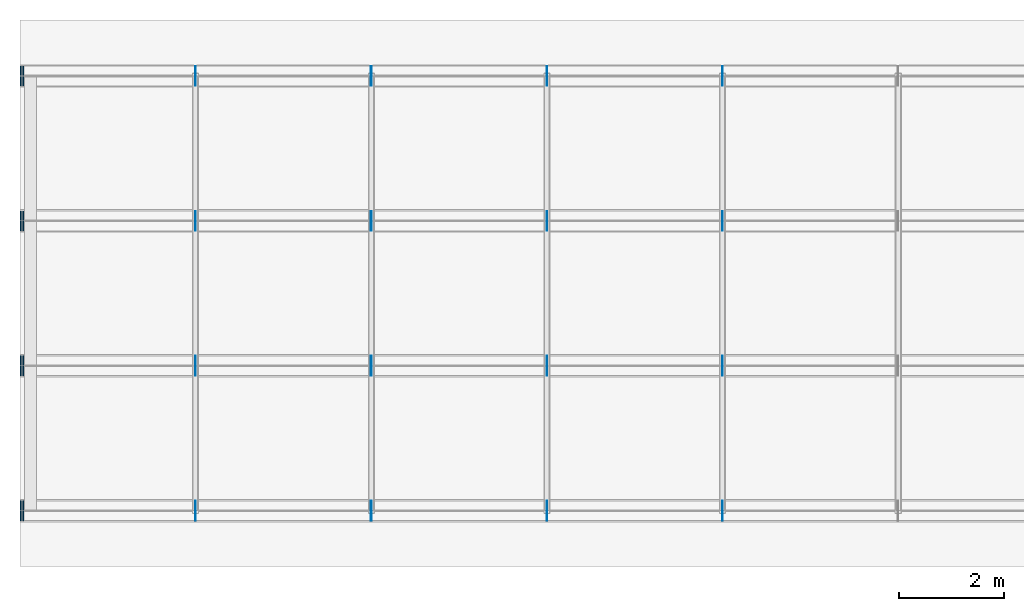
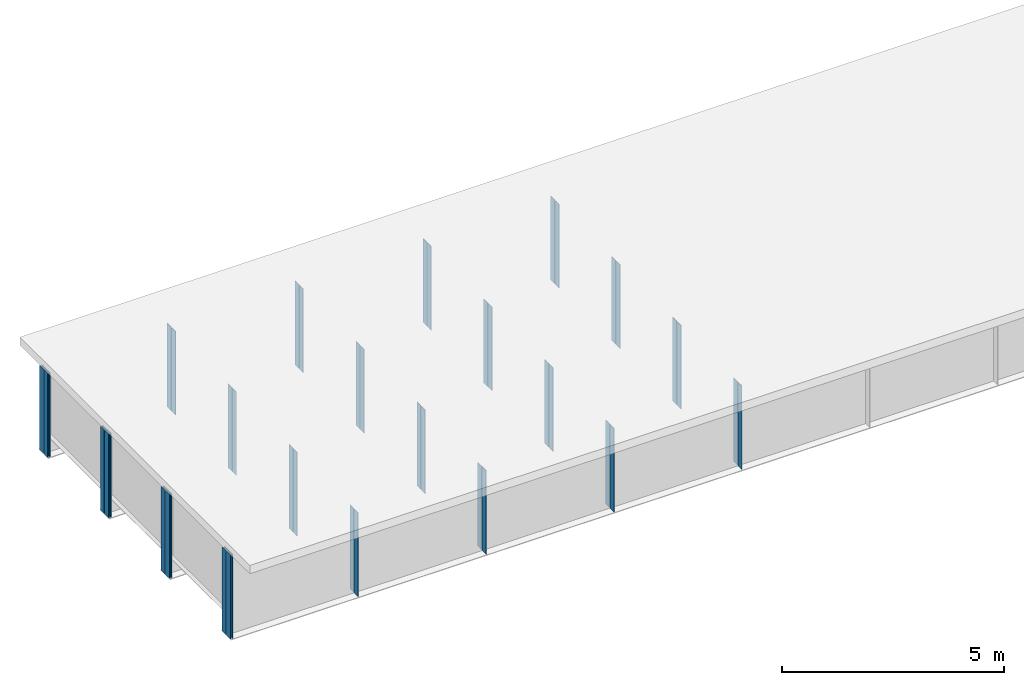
# One storey, part 3 of 13: 48 plates.
"""IFC4 building model written with IfcOpenShell, lengths in metres."""

from ifc_helpers import new_model, si_unit, frame, origin, origin_with_axes, origin_2d_with_axis, place, context, subcontext, project, spatial, rectangle, extrude, element, save


model = new_model("IFC4")

# Units and contexts
model_context = context("Model", 3, precision=1e-05, world=origin())
body_context = subcontext(model_context, "Body", "Model", "MODEL_VIEW")
ifc_project = project(units=[si_unit("LENGTHUNIT", "METRE"), si_unit("AREAUNIT", "SQUARE_METRE"), si_unit("VOLUMEUNIT", "CUBIC_METRE"), si_unit("PLANEANGLEUNIT", "RADIAN")], contexts=[model_context])

# Site, building, storey
site_placement = place(None, origin_with_axes())
site = spatial("IfcSite", under=ifc_project, at=site_placement, Name="Default Site")
building_placement = place(site_placement, origin_with_axes())
building = spatial("IfcBuilding", under=site, at=building_placement, Name="Bridge Structure")
storey_placement = place(building_placement, origin_with_axes())
storey = spatial("IfcBuildingStorey", under=building, at=storey_placement, Name="Superstructure")

# Plates
for number, where, z_axis, x_axis, name in (
    (1, (3.333, -4.02625, -1.155), (0.0, 0.0, 1.0), (1.0, 0.0, 0.0), "Intermediate Stiffener 1"),
    (2, (3.333, -4.22375, -1.155), (0.0, 0.0, 1.0), (1.0, 0.0, 0.0), "Intermediate Stiffener 1"),
    (3, (6.666, -4.02625, -1.155), (0.0, 0.0, 1.0), (1.0, 0.0, 0.0), "Intermediate Stiffener 1"),
    (4, (6.666, -4.22375, -1.155), (0.0, 0.0, 1.0), (1.0, 0.0, 0.0), "Intermediate Stiffener 1"),
    (5, (9.999, -4.02625, -1.155), (0.0, 0.0, 1.0), (1.0, 0.0, 0.0), "Intermediate Stiffener 1"),
    (6, (9.999, -4.22375, -1.155), (0.0, 0.0, 1.0), (1.0, 0.0, 0.0), "Intermediate Stiffener 1"),
    (7, (13.332, -4.02625, -1.155), (0.0, 0.0, 1.0), (1.0, 0.0, 0.0), "Intermediate Stiffener 1"),
    (8, (13.332, -4.22375, -1.155), (0.0, 0.0, 1.0), (1.0, 0.0, 0.0), "Intermediate Stiffener 1"),
):
    element("IfcPlate", number, at=place(storey_placement, frame(where, z_axis=z_axis, x_axis=x_axis)), inside=storey, Name=name, context=body_context, shape_type="SweptSolid", body=[
        extrude(rectangle(XDim=0.012, YDim=0.1775, at=origin_2d_with_axis()), origin_with_axes(), (0.0, 0.0, 1.0), 2.31),
    ])
for number, where, z_axis, x_axis, name in (
    (9, (0.01, -4.02625, -1.155), (0.0, 0.0, 1.0), (1.0, 0.0, 0.0), "End Stiffener 1"),
    (10, (0.01, -4.22375, -1.155), (0.0, 0.0, 1.0), (1.0, 0.0, 0.0), "End Stiffener 1"),
    (11, (0.06, -4.02625, -1.155), (0.0, 0.0, 1.0), (1.0, 0.0, 0.0), "End Stiffener 1"),
    (12, (0.06, -4.22375, -1.155), (0.0, 0.0, 1.0), (1.0, 0.0, 0.0), "End Stiffener 1"),
):
    element("IfcPlate", number, at=place(storey_placement, frame(where, z_axis=z_axis, x_axis=x_axis)), inside=storey, Name=name, context=body_context, shape_type="SweptSolid", body=[
        extrude(rectangle(XDim=0.02, YDim=0.1775, at=origin_2d_with_axis()), origin_with_axes(), (0.0, 0.0, 1.0), 2.31),
    ])
for number, where, z_axis, x_axis, name in (
    (13, (3.333, -1.27625, -1.155), (0.0, 0.0, 1.0), (1.0, 0.0, 0.0), "Intermediate Stiffener 2"),
    (14, (3.333, -1.4737500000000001, -1.155), (0.0, 0.0, 1.0), (1.0, 0.0, 0.0), "Intermediate Stiffener 2"),
    (15, (6.666, -1.27625, -1.155), (0.0, 0.0, 1.0), (1.0, 0.0, 0.0), "Intermediate Stiffener 2"),
    (16, (6.666, -1.4737500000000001, -1.155), (0.0, 0.0, 1.0), (1.0, 0.0, 0.0), "Intermediate Stiffener 2"),
    (17, (9.999, -1.27625, -1.155), (0.0, 0.0, 1.0), (1.0, 0.0, 0.0), "Intermediate Stiffener 2"),
    (18, (9.999, -1.4737500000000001, -1.155), (0.0, 0.0, 1.0), (1.0, 0.0, 0.0), "Intermediate Stiffener 2"),
    (19, (13.332, -1.27625, -1.155), (0.0, 0.0, 1.0), (1.0, 0.0, 0.0), "Intermediate Stiffener 2"),
    (20, (13.332, -1.4737500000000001, -1.155), (0.0, 0.0, 1.0), (1.0, 0.0, 0.0), "Intermediate Stiffener 2"),
):
    element("IfcPlate", number, at=place(storey_placement, frame(where, z_axis=z_axis, x_axis=x_axis)), inside=storey, Name=name, context=body_context, shape_type="SweptSolid", body=[
        extrude(rectangle(XDim=0.012, YDim=0.1775, at=origin_2d_with_axis()), origin_with_axes(), (0.0, 0.0, 1.0), 2.31),
    ])
for number, where, z_axis, x_axis, name in (
    (21, (0.01, -1.27625, -1.155), (0.0, 0.0, 1.0), (1.0, 0.0, 0.0), "End Stiffener 2"),
    (22, (0.01, -1.4737500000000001, -1.155), (0.0, 0.0, 1.0), (1.0, 0.0, 0.0), "End Stiffener 2"),
    (23, (0.06, -1.27625, -1.155), (0.0, 0.0, 1.0), (1.0, 0.0, 0.0), "End Stiffener 2"),
    (24, (0.06, -1.4737500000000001, -1.155), (0.0, 0.0, 1.0), (1.0, 0.0, 0.0), "End Stiffener 2"),
):
    element("IfcPlate", number, at=place(storey_placement, frame(where, z_axis=z_axis, x_axis=x_axis)), inside=storey, Name=name, context=body_context, shape_type="SweptSolid", body=[
        extrude(rectangle(XDim=0.02, YDim=0.1775, at=origin_2d_with_axis()), origin_with_axes(), (0.0, 0.0, 1.0), 2.31),
    ])
for number, where, z_axis, x_axis, name in (
    (25, (3.333, 1.4737500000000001, -1.155), (0.0, 0.0, 1.0), (1.0, 0.0, 0.0), "Intermediate Stiffener 3"),
    (26, (3.333, 1.27625, -1.155), (0.0, 0.0, 1.0), (1.0, 0.0, 0.0), "Intermediate Stiffener 3"),
    (27, (6.666, 1.4737500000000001, -1.155), (0.0, 0.0, 1.0), (1.0, 0.0, 0.0), "Intermediate Stiffener 3"),
    (28, (6.666, 1.27625, -1.155), (0.0, 0.0, 1.0), (1.0, 0.0, 0.0), "Intermediate Stiffener 3"),
    (29, (9.999, 1.4737500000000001, -1.155), (0.0, 0.0, 1.0), (1.0, 0.0, 0.0), "Intermediate Stiffener 3"),
    (30, (9.999, 1.27625, -1.155), (0.0, 0.0, 1.0), (1.0, 0.0, 0.0), "Intermediate Stiffener 3"),
    (31, (13.332, 1.4737500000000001, -1.155), (0.0, 0.0, 1.0), (1.0, 0.0, 0.0), "Intermediate Stiffener 3"),
    (32, (13.332, 1.27625, -1.155), (0.0, 0.0, 1.0), (1.0, 0.0, 0.0), "Intermediate Stiffener 3"),
):
    element("IfcPlate", number, at=place(storey_placement, frame(where, z_axis=z_axis, x_axis=x_axis)), inside=storey, Name=name, context=body_context, shape_type="SweptSolid", body=[
        extrude(rectangle(XDim=0.012, YDim=0.1775, at=origin_2d_with_axis()), origin_with_axes(), (0.0, 0.0, 1.0), 2.31),
    ])
for number, where, z_axis, x_axis, name in (
    (33, (0.01, 1.4737500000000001, -1.155), (0.0, 0.0, 1.0), (1.0, 0.0, 0.0), "End Stiffener 3"),
    (34, (0.01, 1.27625, -1.155), (0.0, 0.0, 1.0), (1.0, 0.0, 0.0), "End Stiffener 3"),
    (35, (0.06, 1.4737500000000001, -1.155), (0.0, 0.0, 1.0), (1.0, 0.0, 0.0), "End Stiffener 3"),
    (36, (0.06, 1.27625, -1.155), (0.0, 0.0, 1.0), (1.0, 0.0, 0.0), "End Stiffener 3"),
):
    element("IfcPlate", number, at=place(storey_placement, frame(where, z_axis=z_axis, x_axis=x_axis)), inside=storey, Name=name, context=body_context, shape_type="SweptSolid", body=[
        extrude(rectangle(XDim=0.02, YDim=0.1775, at=origin_2d_with_axis()), origin_with_axes(), (0.0, 0.0, 1.0), 2.31),
    ])
for number, where, z_axis, x_axis, name in (
    (37, (3.333, 4.22375, -1.155), (0.0, 0.0, 1.0), (1.0, 0.0, 0.0), "Intermediate Stiffener 4"),
    (38, (3.333, 4.02625, -1.155), (0.0, 0.0, 1.0), (1.0, 0.0, 0.0), "Intermediate Stiffener 4"),
    (39, (6.666, 4.22375, -1.155), (0.0, 0.0, 1.0), (1.0, 0.0, 0.0), "Intermediate Stiffener 4"),
    (40, (6.666, 4.02625, -1.155), (0.0, 0.0, 1.0), (1.0, 0.0, 0.0), "Intermediate Stiffener 4"),
    (41, (9.999, 4.22375, -1.155), (0.0, 0.0, 1.0), (1.0, 0.0, 0.0), "Intermediate Stiffener 4"),
    (42, (9.999, 4.02625, -1.155), (0.0, 0.0, 1.0), (1.0, 0.0, 0.0), "Intermediate Stiffener 4"),
    (43, (13.332, 4.22375, -1.155), (0.0, 0.0, 1.0), (1.0, 0.0, 0.0), "Intermediate Stiffener 4"),
    (44, (13.332, 4.02625, -1.155), (0.0, 0.0, 1.0), (1.0, 0.0, 0.0), "Intermediate Stiffener 4"),
):
    element("IfcPlate", number, at=place(storey_placement, frame(where, z_axis=z_axis, x_axis=x_axis)), inside=storey, Name=name, context=body_context, shape_type="SweptSolid", body=[
        extrude(rectangle(XDim=0.012, YDim=0.1775, at=origin_2d_with_axis()), origin_with_axes(), (0.0, 0.0, 1.0), 2.31),
    ])
for number, where, z_axis, x_axis, name in (
    (45, (0.01, 4.22375, -1.155), (0.0, 0.0, 1.0), (1.0, 0.0, 0.0), "End Stiffener 4"),
    (46, (0.01, 4.02625, -1.155), (0.0, 0.0, 1.0), (1.0, 0.0, 0.0), "End Stiffener 4"),
    (47, (0.06, 4.22375, -1.155), (0.0, 0.0, 1.0), (1.0, 0.0, 0.0), "End Stiffener 4"),
    (48, (0.06, 4.02625, -1.155), (0.0, 0.0, 1.0), (1.0, 0.0, 0.0), "End Stiffener 4"),
):
    element("IfcPlate", number, at=place(storey_placement, frame(where, z_axis=z_axis, x_axis=x_axis)), inside=storey, Name=name, context=body_context, shape_type="SweptSolid", body=[
        extrude(rectangle(XDim=0.02, YDim=0.1775, at=origin_2d_with_axis()), origin_with_axes(), (0.0, 0.0, 1.0), 2.31),
    ])

save(model, "model.ifc")
